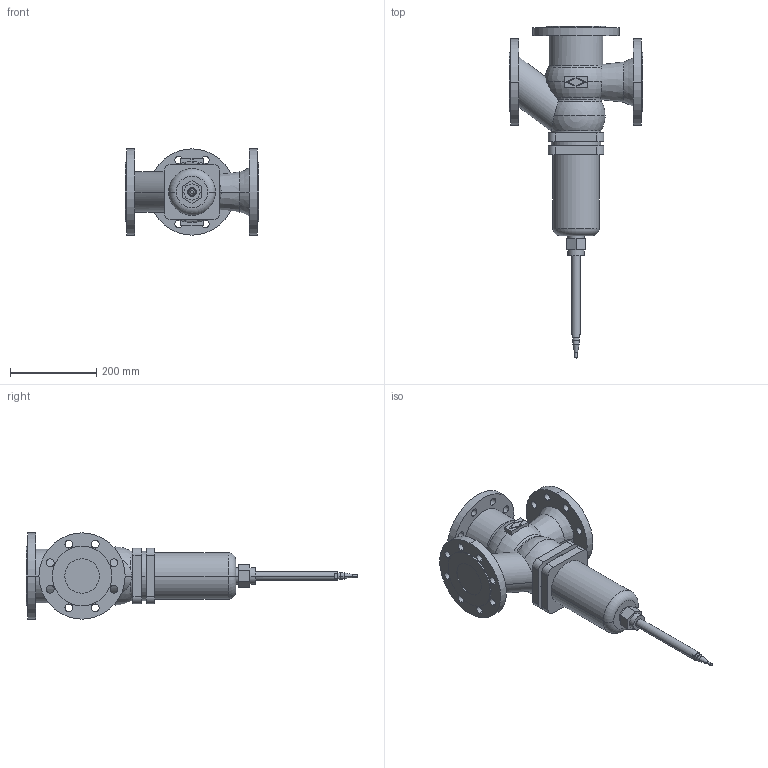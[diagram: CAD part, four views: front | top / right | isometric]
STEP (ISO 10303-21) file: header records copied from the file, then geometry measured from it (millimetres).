
FILE_DESCRIPTION(('CoCreate Modeling STEP Export'),'2;1');
FILE_NAME('c000004794.stp','2011-09-23T12:31:31',(''),(''),'CoCreate Modeling STEP processor for AP214 (Solid Model)','CoCreate Modeling 17.0 01-Apr-2010 (C) Parametric Technology GmbH','');
FILE_SCHEMA(('AUTOMOTIVE_DESIGN { 1 0 10303 214 1 1 1 1 }'));
Length unit declared in the file: millimetre
Products named in the file (1): 1
Bounding box: 310 x 770.06 x 200 mm (x, y, z)
Volume: 8510303.8 mm3; surface area: 485321.8 mm2
Topology: 1 solids, 1 shells, 176 faces, 453 edges, 295 vertices
Faces by surface type: cylinder 94, plane 60, torus 12, cone 6, sphere 4
Entity records: 6386 total; most frequent: CARTESIAN_POINT 1031, ORIENTED_EDGE 898, DIRECTION 690, EDGE_CURVE 449, VERTEX_POINT 295, AXIS2_PLACEMENT_3D 250, EDGE_LOOP 244, VECTOR 190
